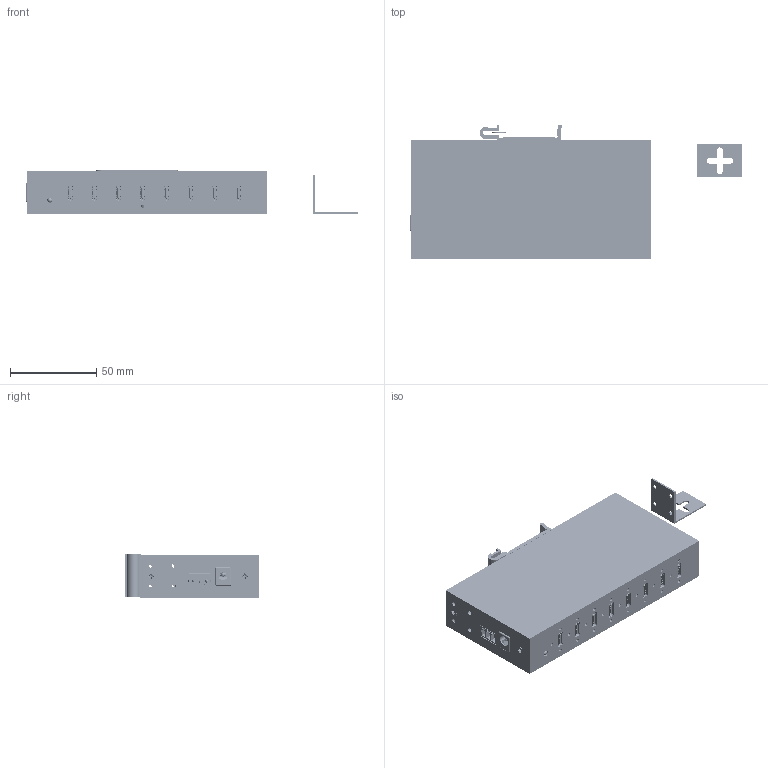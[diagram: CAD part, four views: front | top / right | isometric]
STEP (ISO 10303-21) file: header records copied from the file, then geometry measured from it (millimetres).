
FILE_DESCRIPTION(('FreeCAD Model'),'2;1');
FILE_NAME('Open CASCADE Shape Model','2024-10-14T14:16:40',(''),(''), 'Open CASCADE STEP processor 7.6','FreeCAD','Unknown');
FILE_SCHEMA(('AUTOMOTIVE_DESIGN { 1 0 10303 214 1 1 1 1 }'));
Length unit declared in the file: millimetre
Products named in the file (172): Unnamed; Rackmount_Kit_12297HMS; Assem1; 6913053400xx_PIN; 6913053400xx_PIN001; 6913053400xx_PIN002; 691305340003; 12277HMS_pcb; 6941xx301003; 6941xx301002; 694108301002_PinContact; 6941xx301002_Back; 6941xx301002_PinContact2; 6941xx301002_PinLame; 6941xx301002_PinBis; xb-usb-typec-24pin_002; SOLID017; SOLID018; SOLID019; SOLID020; SOLID021; SOLID022; SOLID023; SOLID024; SOLID025; SOLID026; SOLID027; SOLID028; SOLID029; SOLID030; SOLID031; SOLID032; SOLID033; xb-usb-typec-24pin_003; SOLID034; SOLID035; SOLID036; SOLID037; SOLID038; SOLID039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
Assembly tree (171 placements, depth 3):
  Unnamed
    Rackmount_Kit_12297HMS
    Assem1
      6913053400xx_PIN
      6913053400xx_PIN001
      6913053400xx_PIN002
      691305340003
    12277HMS_pcb
    6941xx301003
      6941xx301002
      694108301002_PinContact
      6941xx301002_Back
      6941xx301002_PinContact2
      6941xx301002_PinLame
      6941xx301002_PinBis
    xb-usb-typec-24pin_002
      SOLID017
      SOLID018
      SOLID019
      SOLID020
      SOLID021
      SOLID022
      SOLID023
      SOLID024
      SOLID025
      SOLID026
      SOLID027
      SOLID028
      SOLID029
      SOLID030
      SOLID031
      SOLID032
      SOLID033
    xb-usb-typec-24pin_003
      SOLID034
      SOLID035
      SOLID036
      SOLID037
      SOLID038
      SOLID039
      SOLID040
      SOLID041
      SOLID042
      SOLID043
      SOLID044
      SOLID045
      SOLID046
      SOLID047
      SOLID048
      SOLID049
      SOLID050
    xb-usb-typec-24pin_004
      SOLID068
      SOLID069
      SOLID070
      SOLID071
      SOLID072
      SOLID073
      SOLID074
      SOLID075
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Bounding box: 192.5 x 77.52 x 25.2 mm (x, y, z)
Volume: 50587.6 mm3; surface area: 107267.7 mm2
Topology: 162 solids, 165 shells, 36152 faces, 103392 edges, 67164 vertices
Faces by surface type: plane 28528, cylinder 5652, cone 1283, extrusion 264, torus 212, bspline 192, sphere 16, revolution 5
Full cylindrical faces by diameter (mm): 1 x2, 1.5 x3, 1.8 x28, 2 x4, 2.459 x2, 2.5 x23, 2.6 x7, 2.7 x2, 3 x3, 3.2 x7, 3.6 x1, 5.5 x3, 6 x5, 6.4 x1
Entity records: 1184041 total; most frequent: CARTESIAN_POINT 227919, ORIENTED_EDGE 206756, DIRECTION 185627, EDGE_CURVE 103378, VECTOR 88370, LINE 88106, VERTEX_POINT 67164, AXIS2_PLACEMENT_3D 48626
